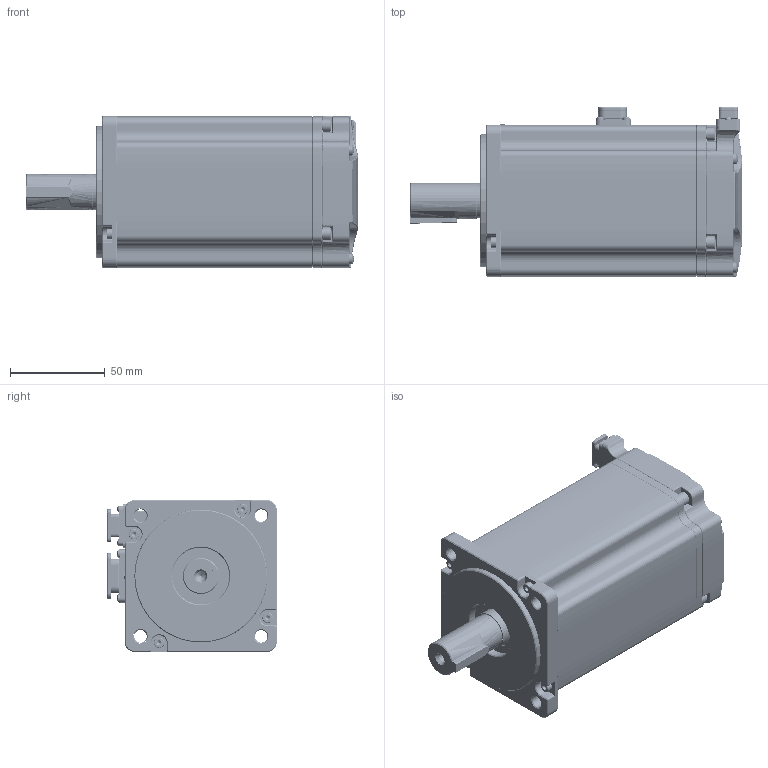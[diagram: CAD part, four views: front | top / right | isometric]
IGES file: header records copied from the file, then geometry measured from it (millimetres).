
Start section: SolidWorks IGES file using analytic representation for surfaces
Global section: file name: Z:\部门共同资料库\官网3D图\EM3Jnew\小型连接器电机\EM3J-08ALA243.IGS; native system: SolidWorks 2018; preprocessor: SolidWorks 2018; author: wangyitong; date: 231117.152728; units: millimetre
Bounding box: 175 x 89.3 x 80 mm (x, y, z)
Surface area: 149984.7 mm2 (no closed solid volume)
Topology: 0 solids, 0 shells, 3115 faces, 31957 edges, 31910 vertices
Faces by surface type: bspline 1765, revolution 1350
